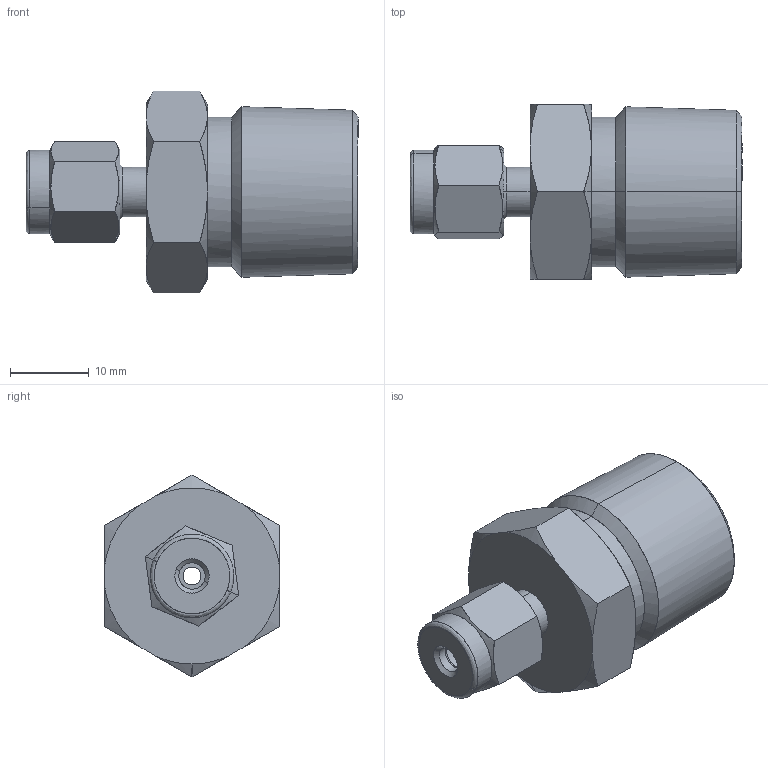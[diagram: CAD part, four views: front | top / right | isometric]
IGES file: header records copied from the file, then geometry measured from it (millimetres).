
Start section: Comment
Global section: file name: SMC2-8N.igs; native system:  By UGS Corp.; preprocessor: XPlus GENERIC/IGES 3.0; author: Author; organization: Title; date: 20100113.150343; units: millimetre
Bounding box: 42.14 x 22.2 x 25.63 mm (x, y, z)
Surface area: 4017.5 mm2 (no closed solid volume)
Topology: 0 solids, 0 shells, 82 faces, 356 edges, 356 vertices
Faces by surface type: bspline 82
